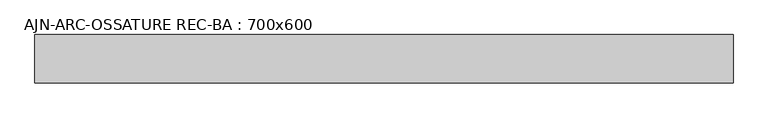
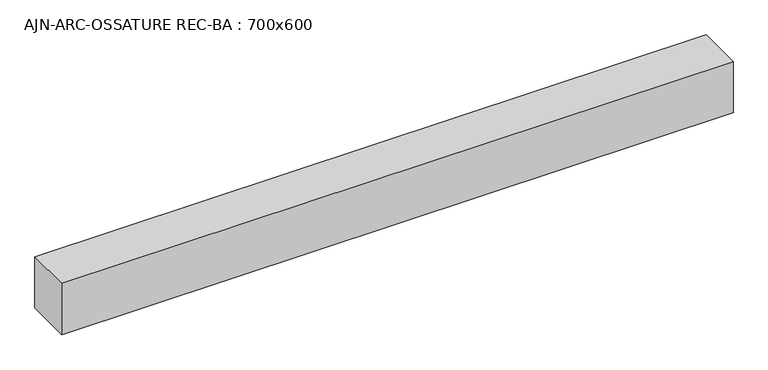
"""IFC4 building model written with IfcOpenShell, lengths in millimetres: beam geometry, AJN-ARC-OSSATURE REC-BA : 700x600."""

from ifc_helpers import new_model, si_unit, frame, origin, place, context, project, spatial, polyline, outline, extrude, source, transform, mapped, element, save


def ajn_arc_ossature_rec_ba_700x600_cc927ea2(model_context):
    return source(origin(), model_context, "Body", "SweptSolid", [
        extrude(outline(polyline([(4187.3, 300.0), (4187.3, -300.0), (-4487.2999994, -300.0), (-4487.2999994, 300.0), (4187.3, 300.0)])), frame((0.0, 0.0, -350.0), z_axis=(0.0, 0.0, 1.0), x_axis=(1.0, 0.0, 0.0)), (0.0, 0.0, 1.0), 700.0),
    ])


if __name__ == "__main__":
    model = new_model("IFC4")
    model_context = context("Model", 3, world=origin())
    ifc_project = project(units=[si_unit("LENGTHUNIT", "METRE", prefix="MILLI")], contexts=[model_context])
    site = spatial("IfcSite", under=ifc_project)
    building = spatial("IfcBuilding", under=site)
    placement = place(None, origin())
    ajn_arc_ossature_rec_ba_700x600_shape = ajn_arc_ossature_rec_ba_700x600_cc927ea2(model_context)
    element("IfcBeam", 1, ObjectType="AJN-ARC-OSSATURE REC-BA : 700x600", at=placement, inside=building, context=model_context, shape_type="MappedRepresentation", body=[
        mapped(ajn_arc_ossature_rec_ba_700x600_shape, transform((0.0, 0.0, 0.0), x_axis=(1.0, 0.0, 0.0), y_axis=(0.0, 1.0, 0.0), z_axis=(0.0, 0.0, 1.0))),
    ])
    save(model, "model.ifc")
